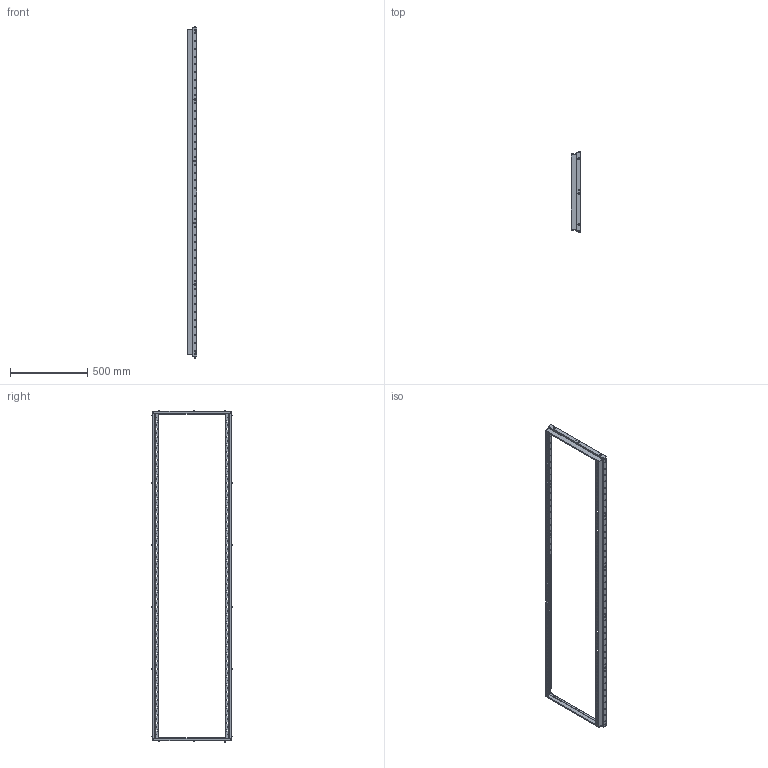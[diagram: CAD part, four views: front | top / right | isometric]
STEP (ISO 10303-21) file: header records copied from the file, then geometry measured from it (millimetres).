
FILE_DESCRIPTION (( 'STEP AP214' ), '1' );
FILE_NAME ('FO-00-UVF-220-060 Ðàìà äëÿ ïëàñòðîíîâ 2200õ600.STEP', '2025-09-25T13:46:19', ( '' ), ( '' ), 'SwSTEP 2.0', 'SolidWorks 2023', '' );
FILE_SCHEMA (( 'AUTOMOTIVE_DESIGN' ));
Length unit declared in the file: millimetre
Products named in the file (1): FO-00-UVF-220-060 Рама для пластронов 2200х600
Bounding box: 60.8 x 526.02 x 2146 mm (x, y, z)
Volume: 816630.1 mm3; surface area: 973933.4 mm2
Topology: 1 solids, 1 shells, 1916 faces, 5096 edges, 3370 vertices
Faces by surface type: plane 1054, cylinder 794, sphere 28, cone 28, torus 12
Entity records: 61103 total; most frequent: CARTESIAN_POINT 11321, ORIENTED_EDGE 10192, DIRECTION 10150, EDGE_CURVE 5096, LINE 3400, VECTOR 3400, AXIS2_PLACEMENT_3D 3375, VERTEX_POINT 3370
